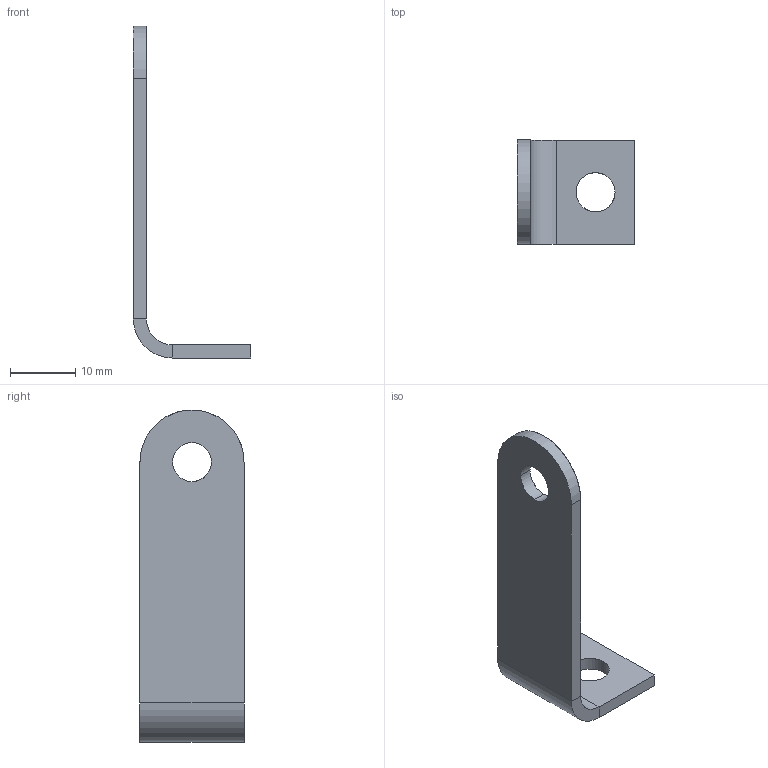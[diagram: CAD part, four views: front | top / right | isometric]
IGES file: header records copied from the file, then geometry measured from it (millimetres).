
Start section: START RECORD GO HERE.
Global section: file name: Chainshield_bracket_2.igs; native system: IBM CATIA IGES - CATIA Version 5 Release 19 ; preprocessor: CATIA Version 5 Release 19 ; author: basti; organization: BASTIEN; date: 20240523.224045; units: millimetre
Bounding box: 18 x 16 x 51 mm (x, y, z)
Surface area: 2292.4 mm2 (no closed solid volume)
Topology: 0 solids, 0 shells, 22 faces, 104 edges, 104 vertices
Faces by surface type: plane 11, revolution 11
